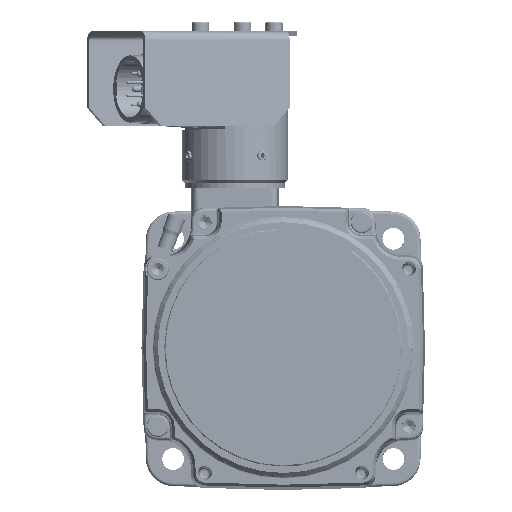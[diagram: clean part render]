
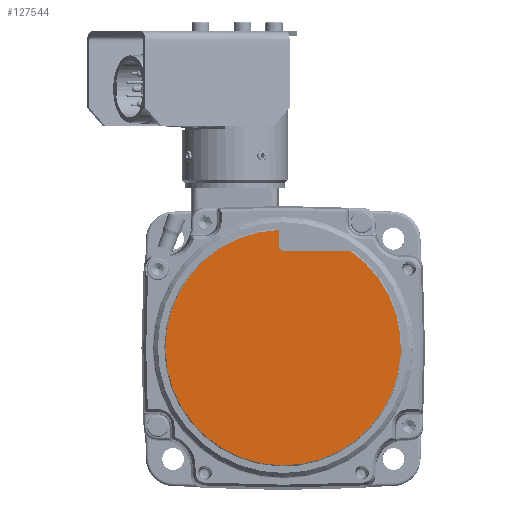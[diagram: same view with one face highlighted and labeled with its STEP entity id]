
A CAD part, top view. The second image highlights one B-rep face of the part: STEP entity #127544.
In plain terms, the highlighted planar face has unit normal (0, 0, 1).
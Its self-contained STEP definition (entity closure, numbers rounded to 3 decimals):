
#119888=CARTESIAN_POINT('',(-1.5,37.77,60.3));
#119890=CARTESIAN_POINT('',(0.,0.,60.3));
#119891=DIRECTION('',(0.,0.,-1.));
#119892=DIRECTION('',(0.572,0.82,0.));
#119893=AXIS2_PLACEMENT_3D('',#119890,#119891,#119892);
#119916=CARTESIAN_POINT('',(0.5,33.,60.3));
#119917=DIRECTION('',(0.,0.,-1.));
#119918=DIRECTION('',(0.,-1.,0.));
#119919=AXIS2_PLACEMENT_3D('',#119916,#119917,#119918);
#119938=DIRECTION('',(0.,-1.,0.));
#119939=VECTOR('',#119938,4.77);
#119940=CARTESIAN_POINT('',(-1.5,37.77,60.3));
#119941=LINE('',#119940,#119939);
#119942=DIRECTION('',(1.,0.,0.));
#119943=VECTOR('',#119942,21.13);
#119944=CARTESIAN_POINT('',(0.5,31.,60.3));
#119945=LINE('',#119944,#119943);
#120411=CARTESIAN_POINT('',(0.5,31.,60.3));
#120413=VERTEX_POINT('',#120411);
#120415=CARTESIAN_POINT('',(-1.5,33.,60.3));
#120417=VERTEX_POINT('',#120415);
#120431=VERTEX_POINT('',#119888);
#120432=CARTESIAN_POINT('',(21.63,31.,60.3));
#120433=VERTEX_POINT('',#120432);
#127533=CARTESIAN_POINT('',(0.,0.,60.3));
#127534=DIRECTION('',(0.,0.,1.));
#127535=DIRECTION('',(1.,0.,0.));
#127536=AXIS2_PLACEMENT_3D('',#127533,#127534,#127535);
#127537=PLANE('',#127536);
#127538=ORIENTED_EDGE('',*,*,#127481,.T.);
#127539=ORIENTED_EDGE('',*,*,#127499,.T.);
#127540=ORIENTED_EDGE('',*,*,#127511,.F.);
#127541=ORIENTED_EDGE('',*,*,#127524,.T.);
#127542=EDGE_LOOP('',(#127538,#127539,#127540,#127541));
#127543=FACE_OUTER_BOUND('',#127542,.F.);
#127544=ADVANCED_FACE('',(#127543),#127537,.T.);
#119894=CIRCLE('',#119893,37.8);
#119920=CIRCLE('',#119919,2.);
#127481=EDGE_CURVE('',#120433,#120431,#119894,.T.);
#127499=EDGE_CURVE('',#120431,#120417,#119941,.T.);
#127511=EDGE_CURVE('',#120413,#120417,#119920,.T.);
#127524=EDGE_CURVE('',#120413,#120433,#119945,.T.);
